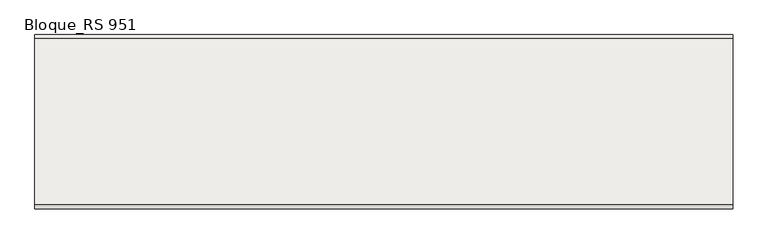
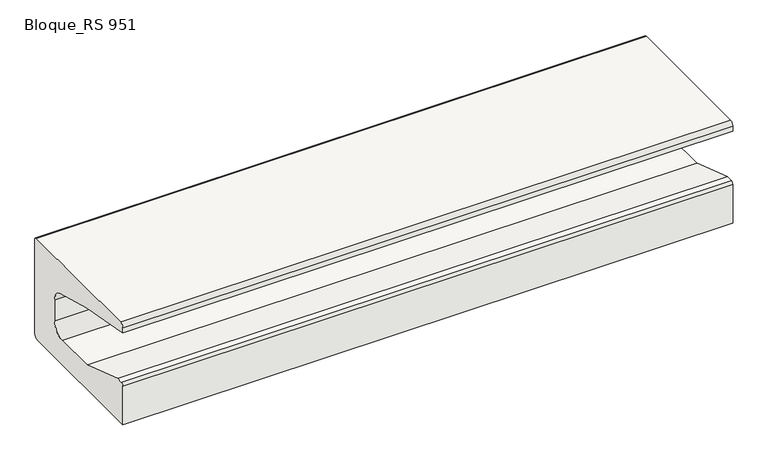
"""IFC4 building model written with IfcOpenShell, lengths in millimetres: slab geometry, ROSA GRES_RS 951 : Bloque_RS 951."""

from ifc_helpers import new_model, si_unit, point, frame, frame_2d, origin, place, context, project, spatial, polyline, circle_curve, trimmed, segment, composite_curve, outline, extrude, source, transform, mapped, element, save


def bloque_rs_951_037b68bb(model_context):
    return source(origin(), model_context, "Body", "SweptSolid", [
        extrude(outline(composite_curve([segment(polyline([(20.0, 10.0), (20.0, 90.0094288)]), True, "CONTINUOUS"), segment(trimmed(circle_curve(frame_2d((25.0, 90.0094288)), 5.0), [point((20.0, 90.0094288))], [point((25.0, 95.0094288))], False, "CARTESIAN"), True, "CONTINUOUS"), segment(polyline([(25.0, 95.0094288), (38.2035251, 95.0094288), (141.2759641, 60.0838698), (225.0599333, 60.0838698)]), True, "CONTINUOUS"), segment(trimmed(circle_curve(frame_2d((225.2461128, 84.8382752)), 24.7551055), [point((225.0599333, 60.0838698))], [point((250.0, 85.0838698))], True, "CARTESIAN"), True, "CONTINUOUS"), segment(polyline([(250.0, 85.0838698), (250.0, 128.9393377)]), True, "CONTINUOUS"), segment(trimmed(circle_curve(frame_2d((225.2461128, 129.1849323)), 24.7551055), [point((250.0, 128.9393377))], [point((231.9063097, 153.0272691))], True, "CARTESIAN"), True, "CONTINUOUS"), segment(polyline([(231.9063097, 153.0272691), (141.4794893, 178.287395), (19.9999903, 200.0838698), (19.9999903, 210.2775772)]), True, "CONTINUOUS"), segment(trimmed(circle_curve(frame_2d((27.9999903, 210.2775772)), 8.0), [point((19.9999903, 210.2775772))], [point((27.9999903, 218.2775772))], False, "CARTESIAN"), True, "CONTINUOUS"), segment(polyline([(27.9999903, 218.2775772), (311.9003845, 218.2775772)]), True, "CONTINUOUS"), segment(trimmed(circle_curve(frame_2d((312.2133333, 213.297208)), 4.9901918), [point((311.9003845, 218.2775772))], [point((317.2035155, 213.2873902))], False, "CARTESIAN"), True, "CONTINUOUS"), segment(polyline([(317.2035155, 213.2873902), (317.2035155, 20.0)]), True, "CONTINUOUS"), segment(trimmed(circle_curve(frame_2d((307.2035155, 20.0)), 10.0), [point((317.2035155, 20.0))], [point((307.2035155, 10.0))], False, "CARTESIAN"), True, "CONTINUOUS"), segment(polyline([(307.2035155, 10.0), (20.0, 10.0)]), True, "CONTINUOUS")], self_intersect=False)), frame((0.0, 0.0, 0.0), z_axis=(1.0, 0.0, 0.0), x_axis=(0.0, 1.0, 0.0)), (0.0, 0.0, 1.0), 1189.2964749),
    ])


if __name__ == "__main__":
    model = new_model("IFC4")
    model_context = context("Model", 3, world=origin())
    ifc_project = project(units=[si_unit("LENGTHUNIT", "METRE", prefix="MILLI")], contexts=[model_context])
    site = spatial("IfcSite", under=ifc_project)
    building = spatial("IfcBuilding", under=site)
    placement = place(None, origin())
    bloque_rs_951_shape = bloque_rs_951_037b68bb(model_context)
    element("IfcSlab", 1, ObjectType="ROSA GRES_RS 951 : Bloque_RS 951", at=placement, inside=building, context=model_context, shape_type="MappedRepresentation", body=[
        mapped(bloque_rs_951_shape, transform((0.0, 0.0, 0.0), x_axis=(1.0, 0.0, 0.0), y_axis=(0.0, 1.0, 0.0), z_axis=(0.0, 0.0, 1.0))),
    ])
    save(model, "model.ifc")
